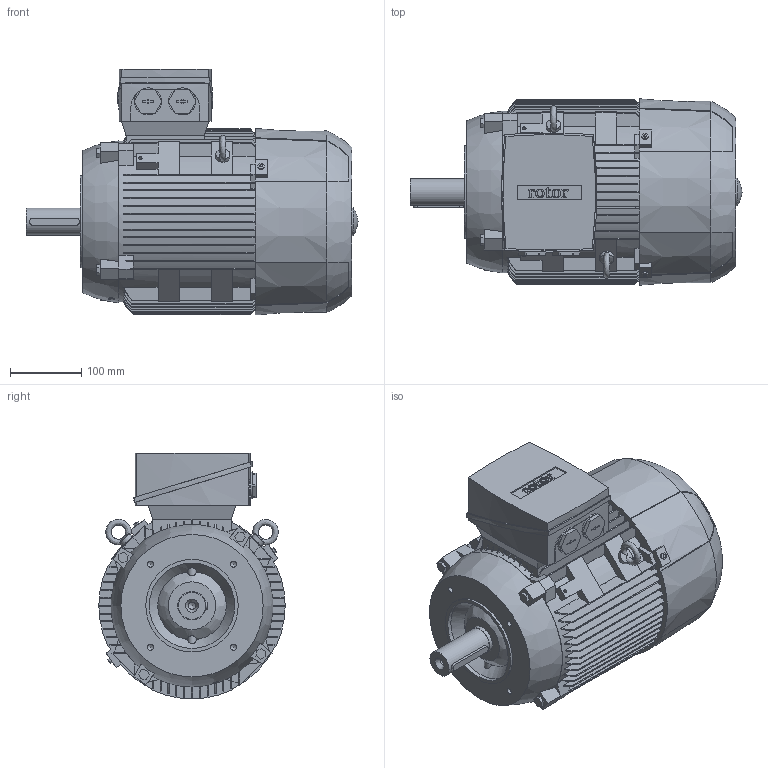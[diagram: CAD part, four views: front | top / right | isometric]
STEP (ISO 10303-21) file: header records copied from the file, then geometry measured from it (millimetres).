
FILE_DESCRIPTION (( 'STEP AP214' ), '1' );
FILE_NAME ('6RN132S08E10 IM3641.STEP', '2017-04-07T13:16:11', ( 'rbc_ict' ), ( '' ), 'SwSTEP 2.0', 'SolidWorks 2015', '' );
FILE_SCHEMA (( 'AUTOMOTIVE_DESIGN' ));
Length unit declared in the file: millimetre
Products named in the file (1): 6RN132S08E10 IM3641
Bounding box: 466.5 x 262 x 345.5 mm (x, y, z)
Volume: 18822616.7 mm3; surface area: 750965.9 mm2
Topology: 1 solids, 1 shells, 814 faces, 2282 edges, 1508 vertices
Faces by surface type: plane 502, bspline 166, cylinder 124, cone 22
Full cylindrical faces by diameter (mm): 5 x2, 6.7 x3, 8 x2, 8.16 x1, 8.38 x4, 10.2 x1, 11.5 x4, 20 x2, 38 x3, 39 x1, 40 x1, 120 x1, 130 x1
Entity records: 39372 total; most frequent: CARTESIAN_POINT 12111, ORIENTED_EDGE 4436, DIRECTION 3302, EDGE_CURVE 2218, VERTEX_POINT 1486, VECTOR 1284, LINE 1284, AXIS2_PLACEMENT_3D 1009
